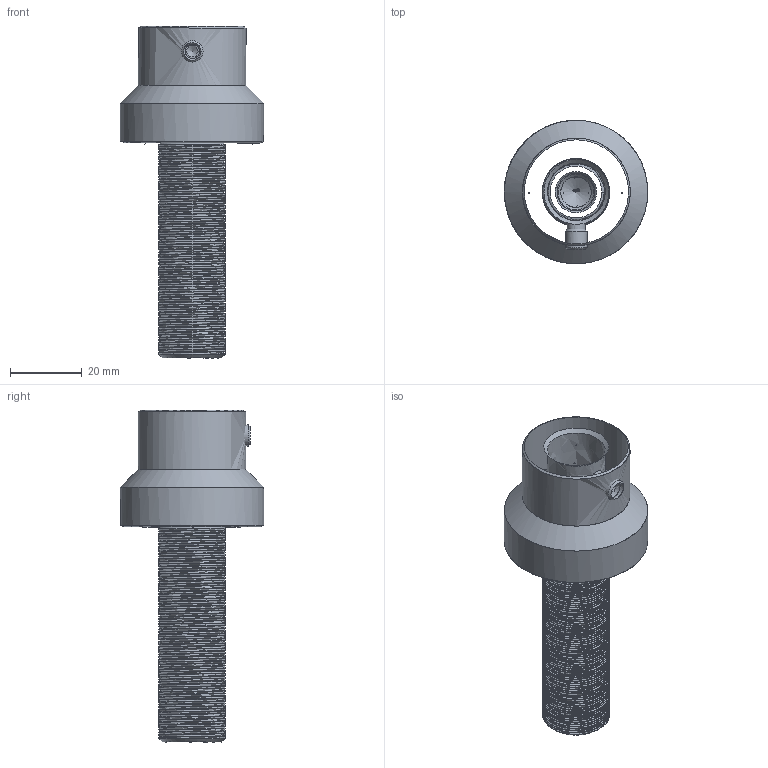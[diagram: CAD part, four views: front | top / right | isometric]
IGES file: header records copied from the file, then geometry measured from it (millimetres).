
Start section: ZWSOFT
Global section: file name: 3205438b_TW16AW19.igs; native system: ZW3D; preprocessor: 1.0; author: ZW3D; organization: ZWSOFT; date: 160303.102541; units: millimetre
Bounding box: 40.04 x 39.98 x 92.55 mm (x, y, z)
Surface area: 11140.5 mm2 (no closed solid volume)
Topology: 0 solids, 0 shells, 137 faces, 727 edges, 680 vertices
Faces by surface type: bspline 113, plane 24
